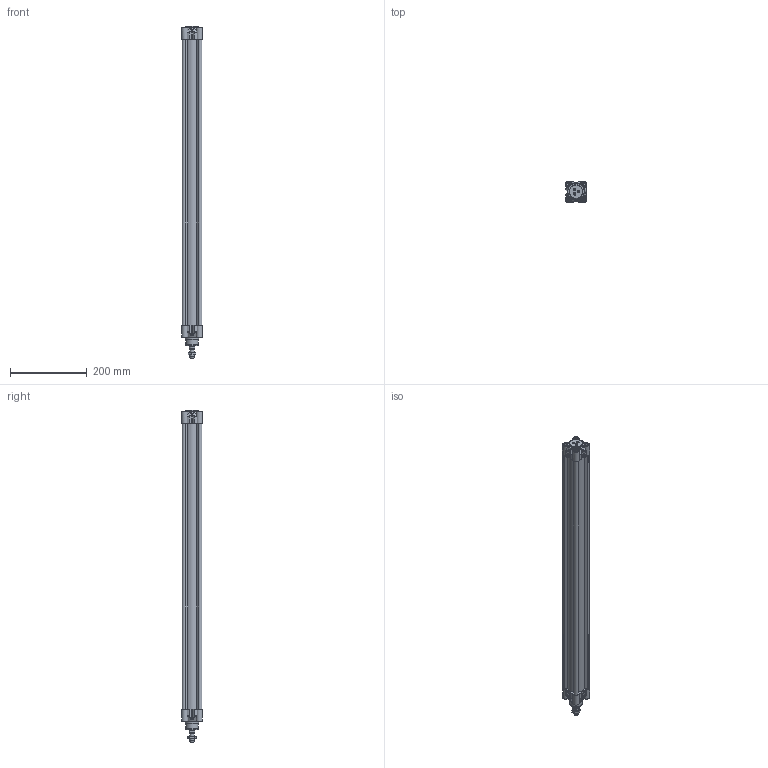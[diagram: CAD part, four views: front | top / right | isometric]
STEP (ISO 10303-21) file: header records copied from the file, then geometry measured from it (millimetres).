
FILE_DESCRIPTION(/* description */ ('Unknown'),/* implementation_level */ '2;1');
FILE_NAME(/* name */ 'HIFO 40_700',/* time_stamp */ '2024-08-14T09:26:46+02:00',/* author */ ('Unknown'),/* organization */ ('Unknown'),/* preprocessor_version */ 'ST-DEVELOPER v16.7',/* originating_system */ 'Solid Edge',/* authorisation */ 'Unknown');
FILE_SCHEMA (('AUTOMOTIVE_DESIGN {1 0 10303 214 3 1 1}'));
Length unit declared in the file: millimetre
Products named in the file (6): HIFO 40_700; Profilrohr 40_700; Mutter; Kolbenstange 40_700; Kit_1; Kit_2
Assembly tree (5 placements, depth 2):
  HIFO 40_700
    Profilrohr 40_700
    Mutter
    Kolbenstange 40_700
    Kit_1
    Kit_2
Bounding box: 54.5 x 54.5 x 863 mm (x, y, z)
Volume: 823673.1 mm3; surface area: 492791.6 mm2
Topology: 5 solids, 12 shells, 963 faces, 2463 edges, 1610 vertices
Faces by surface type: plane 392, cylinder 309, cone 95, torus 76, bspline 73, sphere 18
Full cylindrical faces by diameter (mm): 2.5 x1, 3 x3, 3.5 x3, 4.917 x16, 6 x11, 6.2 x8, 7 x1, 9.9 x2, 10 x13, 10.3 x8, 10.647 x1, 11.44 x1, 11.445 x2, 12 x1, 15.5 x1, 16 x2, 16.6 x1, 16.8 x1, 16.847 x1, 20 x1, 26 x2, 33 x1, 35 x2, 40 x2
Entity records: 37469 total; most frequent: CARTESIAN_POINT 9065, ORIENTED_EDGE 4790, DIRECTION 4576, EDGE_CURVE 2395, AXIS2_PLACEMENT_3D 1737, VERTEX_POINT 1593, FACE_BOUND 1128, EDGE_LOOP 1120
